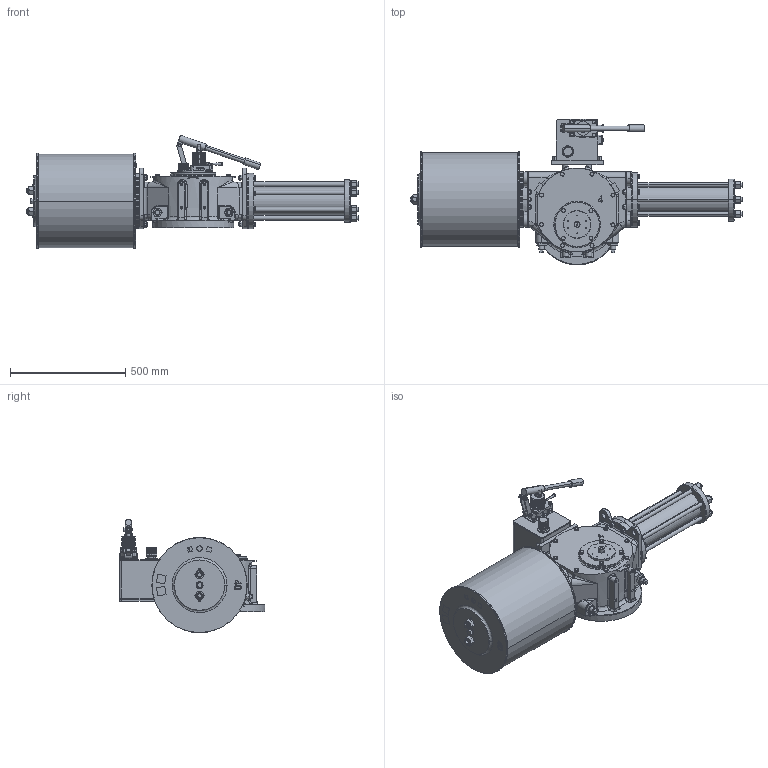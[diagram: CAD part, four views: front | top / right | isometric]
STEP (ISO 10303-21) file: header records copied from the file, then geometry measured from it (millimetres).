
FILE_DESCRIPTION (( 'STEP AP203' ), '1' );
FILE_NAME ('VTS4-400-MH.STEP', '2023-01-01T09:33:48', ( '' ), ( '' ), 'SwSTEP 2.0', 'SolidWorks 2020', '' );
FILE_SCHEMA (( 'CONFIG_CONTROL_DESIGN' ));
Length unit declared in the file: millimetre
Products named in the file (1): VTS4-400-MH
Bounding box: 1439 x 631.4 x 491.77 mm (x, y, z)
Volume: 95025276.8 mm3; surface area: 2916160.3 mm2
Topology: 71 solids, 74 shells, 2892 faces, 7083 edges, 4475 vertices
Faces by surface type: plane 1211, cylinder 939, cone 624, bspline 112, torus 6
Entity records: 98673 total; most frequent: CARTESIAN_POINT 30725, DIRECTION 14305, ORIENTED_EDGE 14054, EDGE_CURVE 7027, AXIS2_PLACEMENT_3D 5591, VERTEX_POINT 4475, EDGE_LOOP 3278, LINE 3123
